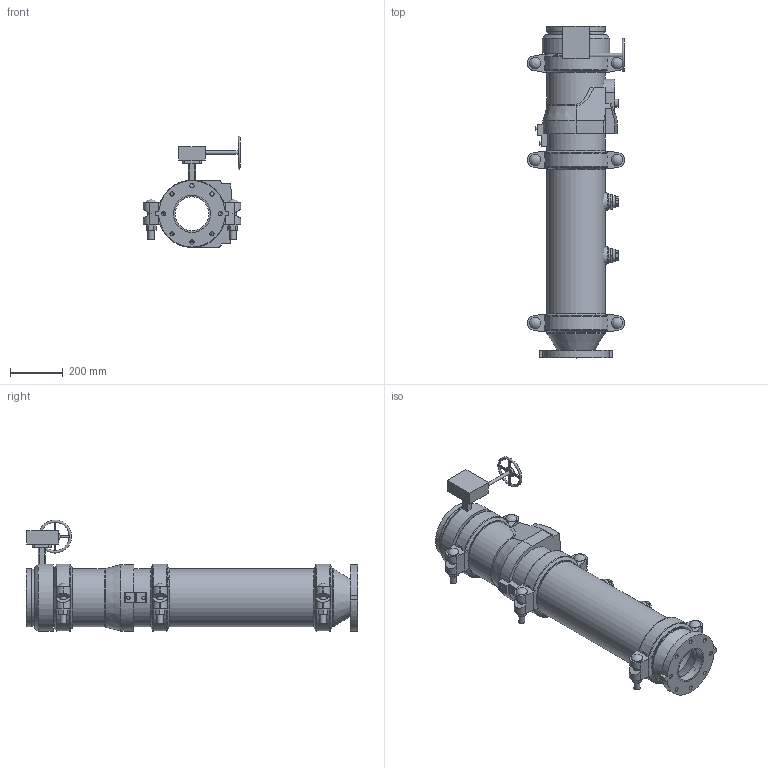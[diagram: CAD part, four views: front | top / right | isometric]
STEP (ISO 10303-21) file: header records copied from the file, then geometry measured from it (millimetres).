
FILE_DESCRIPTION(/* description */ ('VIC DVI PUMP DROP VERT S/390 (OGSxFLG)','CAx-IF Rec.Pracs.---Representation and Presentation of Product Manufacturing Information (PMI)---4.0---2014-10-13'),/* implementation_level */ '2;1');
FILE_NAME(/* name */ 'C:\Users\Vjadhav\AppData\Roaming\Autodesk\ApplicationPlugins\Back Up\Victaulic_IPS_Vertical DVI_PN10_Series 390 (OGSxFLG)\Victaulic_IPS_Vertical DVI_PN10_Series 390 (OGSxFLG)_08.0x05.0 (139.7) (200x125).stp',/* time_stamp */ '2020-11-09T17:51:38+05:00',/* author */ ('Vjadhav'),/* organization */ ('Victaulic'),/* preprocessor_version */ 'ST-DEVELOPER v17.2',/* originating_system */ 'Autodesk Inventor 2019',/* authorisation */ '');
FILE_SCHEMA (('AP242_MANAGED_MODEL_BASED_3D_ENGINEERING_MIM_LF { 1 0 10303 442 1 1 4 }'));
Length unit declared in the file: inch
Products named in the file (8): 390-08.0x05.0 (139.7); 741-05.0 (139.7); 050-08.0x05.0 (139.7); Pipe-08.0x04.0; 177N-08.0; 716-08.0; 923-04.0x0.75; 761-08.0
Assembly tree (10 placements, depth 2):
  390-08.0x05.0 (139.7)
    741-05.0 (139.7)
    050-08.0x05.0 (139.7)
    177N-08.0  x3
    Pipe-08.0x04.0
    716-08.0
    923-04.0x0.75  x2
    761-08.0
Bounding box: 367.28 x 1252.98 x 422.39 mm (x, y, z)
Volume: 15763441.4 mm3; surface area: 2612827.4 mm2
Topology: 10 solids, 11 shells, 583 faces, 1550 edges, 1038 vertices
Faces by surface type: plane 350, cylinder 187, cone 20, torus 18, sphere 6, bspline 2
Full cylindrical faces by diameter (mm): 8.636 x4, 12.446 x1, 12.7 x3, 16.002 x8, 22.86 x1, 23.774 x6, 26.67 x2, 30.48 x1, 39.125 x1, 42.85 x6, 45.974 x4, 55.118 x1, 55.626 x2, 128.194 x1, 135.484 x1, 139.7 x3, 202.717 x3, 206.375 x3, 206.985 x1, 214.401 x7, 219.075 x19, 254 x1
Entity records: 11825 total; most frequent: CARTESIAN_POINT 2386, DIRECTION 1922, ORIENTED_EDGE 1788, EDGE_CURVE 894, AXIS2_PLACEMENT_3D 727, VERTEX_POINT 606, LINE 468, VECTOR 468
